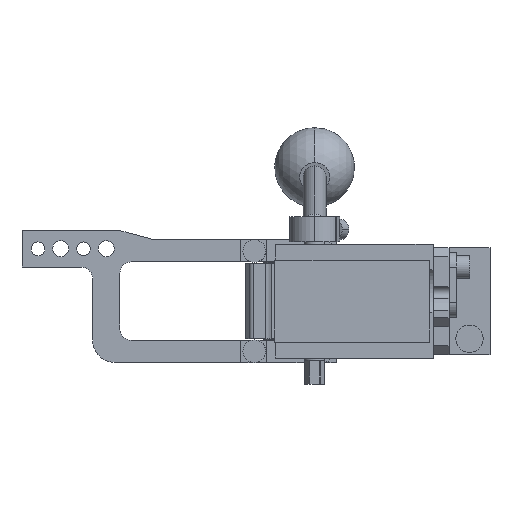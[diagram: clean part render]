
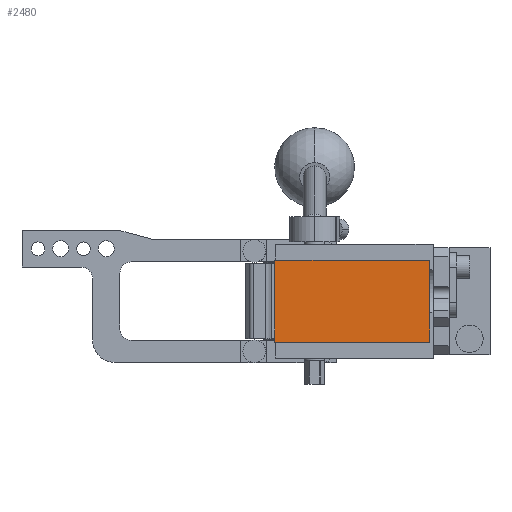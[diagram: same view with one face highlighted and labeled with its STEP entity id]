
A CAD part, front view. The second image highlights one B-rep face of the part: STEP entity #2480.
In plain terms, the highlighted planar face has unit normal (0, -1, 0).
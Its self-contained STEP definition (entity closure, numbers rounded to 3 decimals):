
#770 = EDGE_CURVE ( 'NONE', #5846, #13141, #8624, .T. ) ;
#1166 = CARTESIAN_POINT ( 'NONE',  ( -6., -233., 18. ) ) ;
#1492 = DIRECTION ( 'NONE',  ( 1., 0., 0. ) ) ;
#1635 = CARTESIAN_POINT ( 'NONE',  ( 62., -233., 18. ) ) ;
#1960 = CARTESIAN_POINT ( 'NONE',  ( -6., -233., -18. ) ) ;
#2135 = ORIENTED_EDGE ( 'NONE', *, *, #14515, .T. ) ;
#2480 = ADVANCED_FACE ( 'NONE', ( #2795 ), #11385, .T. ) ;
#2501 = LINE ( 'NONE', #9646, #10859 ) ;
#2795 = FACE_OUTER_BOUND ( 'NONE', #3826, .T. ) ;
#3325 = VECTOR ( 'NONE', #1492, 1000. ) ;
#3349 = CARTESIAN_POINT ( 'NONE',  ( 62., -233., -18. ) ) ;
#3826 = EDGE_LOOP ( 'NONE', ( #5148, #11007, #2135, #13046 ) ) ;
#3969 = EDGE_CURVE ( 'NONE', #14555, #5846, #13164, .T. ) ;
#4091 = DIRECTION ( 'NONE',  ( 0., -1., 0. ) ) ;
#5148 = ORIENTED_EDGE ( 'NONE', *, *, #3969, .T. ) ;
#5204 = DIRECTION ( 'NONE',  ( 0., 0., 1. ) ) ;
#5384 = VECTOR ( 'NONE', #5204, 1000. ) ;
#5584 = VERTEX_POINT ( 'NONE', #9134 ) ;
#5846 = VERTEX_POINT ( 'NONE', #1960 ) ;
#6028 = DIRECTION ( 'NONE',  ( 0., 0., -1. ) ) ;
#6490 = LINE ( 'NONE', #1635, #5384 ) ;
#7469 = EDGE_CURVE ( 'NONE', #5584, #14555, #2501, .T. ) ;
#7602 = CARTESIAN_POINT ( 'NONE',  ( -6., -233., -18. ) ) ;
#7629 = AXIS2_PLACEMENT_3D ( 'NONE', #13938, #4091, #8930 ) ;
#8624 = LINE ( 'NONE', #7602, #3325 ) ;
#8930 = DIRECTION ( 'NONE',  ( 0., 0., -1. ) ) ;
#9134 = CARTESIAN_POINT ( 'NONE',  ( 62., -233., 18. ) ) ;
#9646 = CARTESIAN_POINT ( 'NONE',  ( -6., -233., 18. ) ) ;
#10859 = VECTOR ( 'NONE', #14587, 1000. ) ;
#11007 = ORIENTED_EDGE ( 'NONE', *, *, #770, .T. ) ;
#11385 = PLANE ( 'NONE',  #7629 ) ;
#13046 = ORIENTED_EDGE ( 'NONE', *, *, #7469, .T. ) ;
#13141 = VERTEX_POINT ( 'NONE', #3349 ) ;
#13164 = LINE ( 'NONE', #1166, #13815 ) ;
#13635 = CARTESIAN_POINT ( 'NONE',  ( -6., -233., 18. ) ) ;
#13815 = VECTOR ( 'NONE', #6028, 1000. ) ;
#13938 = CARTESIAN_POINT ( 'NONE',  ( 0., -233., 0. ) ) ;
#14515 = EDGE_CURVE ( 'NONE', #13141, #5584, #6490, .T. ) ;
#14555 = VERTEX_POINT ( 'NONE', #13635 ) ;
#14587 = DIRECTION ( 'NONE',  ( -1., 0., 0. ) ) ;
